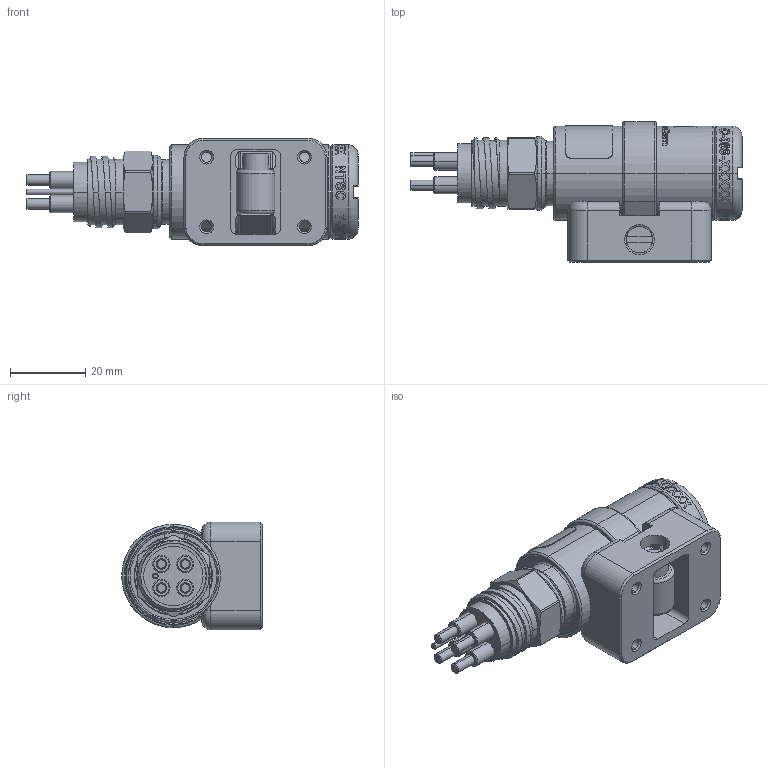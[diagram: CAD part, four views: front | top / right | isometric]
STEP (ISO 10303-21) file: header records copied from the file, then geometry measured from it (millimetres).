
FILE_DESCRIPTION (( 'STEP AP214' ), '1' );
FILE_NAME ('NSC-MCBH4-0D_6km_20181217a.STEP', '2018-12-17T22:01:12', ( '' ), ( '' ), 'SwSTEP 2.0', 'SolidWorks 2018', '' );
FILE_SCHEMA (( 'AUTOMOTIVE_DESIGN' ));
Length unit declared in the file: millimetre
Products named in the file (1): NSC-MCBH4-0D_6km_20181217a
Bounding box: 88.16 x 37.35 x 28.57 mm (x, y, z)
Surface area: 13446.4 mm2 (no closed solid volume)
Topology: 0 solids, 28 shells, 421 faces, 2513 edges, 2154 vertices
Faces by surface type: cylinder 180, plane 87, torus 68, cone 47, bspline 39
Entity records: 40166 total; most frequent: CARTESIAN_POINT 19395, ORIENTED_EDGE 3626, EDGE_CURVE 2513, DIRECTION 2332, VERTEX_POINT 2154, B_SPLINE_CURVE_WITH_KNOTS 1262, AXIS2_PLACEMENT_3D 957, CIRCLE 574
